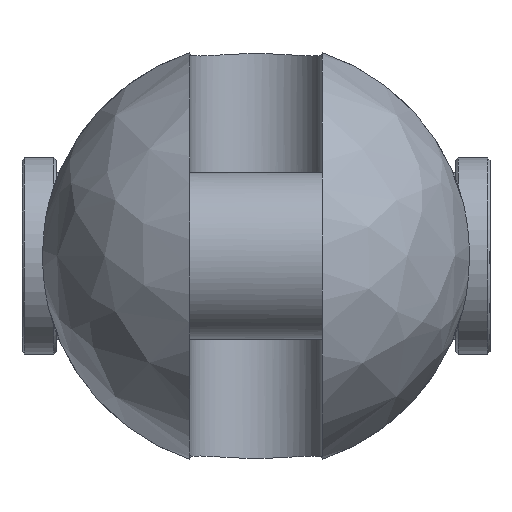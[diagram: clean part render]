
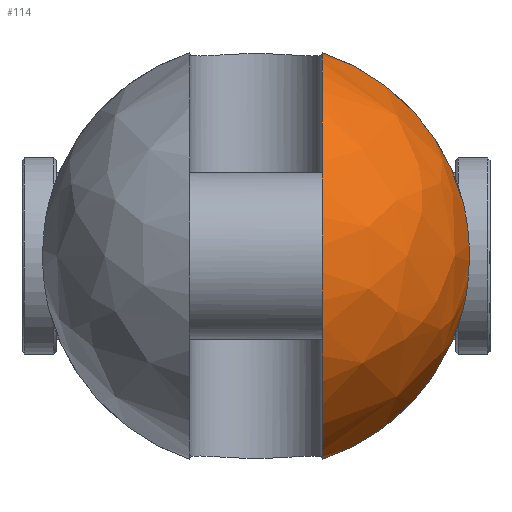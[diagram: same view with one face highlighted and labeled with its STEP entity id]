
A CAD part, left-side view. The second image highlights one B-rep face of the part: STEP entity #114.
In plain terms, the highlighted free-form (B-spline) face has degree [2, 2] with [9, 5] control points.
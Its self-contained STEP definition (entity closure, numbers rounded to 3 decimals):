
#114=ADVANCED_FACE('',(#202),#1535,.T.);
#202=FACE_OUTER_BOUND('',#302,.T.);
#302=EDGE_LOOP('',(#746,#747,#748,#749));
#746=ORIENTED_EDGE('',*,*,#1005,.T.);
#747=ORIENTED_EDGE('',*,*,#1002,.F.);
#748=ORIENTED_EDGE('',*,*,#1021,.T.);
#749=ORIENTED_EDGE('',*,*,#994,.F.);
#994=EDGE_CURVE('',#1425,#1426,#1256,.T.);
#1002=EDGE_CURVE('',#1433,#1434,#1257,.T.);
#1005=EDGE_CURVE('',#1425,#1434,#1259,.T.);
#1021=EDGE_CURVE('',#1433,#1426,#1130,.T.);
#1130=B_SPLINE_CURVE_WITH_KNOTS('',3,(#3620,#3621,#3622,#3623,#3624,#3625,
#3626,#3627,#3628,#3629,#3630,#3631,#3632,#3633),.UNSPECIFIED.,.F.,.F.,
(4,2,2,2,2,2,4),(0.,1.205,6.345,11.484,
16.624,21.764,22.969),.UNSPECIFIED.);
#1256=(
BOUNDED_CURVE()
B_SPLINE_CURVE(2,(#3472,#3473,#3474),.UNSPECIFIED.,.F.,.F.)
B_SPLINE_CURVE_WITH_KNOTS((3,3),(0.,43.672),.UNSPECIFIED.)
CURVE()
GEOMETRIC_REPRESENTATION_ITEM()
RATIONAL_B_SPLINE_CURVE((1.,0.877,1.))
REPRESENTATION_ITEM('')
);
#1257=(
BOUNDED_CURVE()
B_SPLINE_CURVE(2,(#3529,#3530,#3531),.UNSPECIFIED.,.F.,.F.)
B_SPLINE_CURVE_WITH_KNOTS((3,3),(0.,43.672),.UNSPECIFIED.)
CURVE()
GEOMETRIC_REPRESENTATION_ITEM()
RATIONAL_B_SPLINE_CURVE((1.,0.877,1.))
REPRESENTATION_ITEM('')
);
#1259=(
BOUNDED_CURVE()
B_SPLINE_CURVE(2,(#3537,#3538,#3539,#3540,#3541),.UNSPECIFIED.,.F.,.F.)
B_SPLINE_CURVE_WITH_KNOTS((3,2,3),(-129.912,-64.956,
0.),.UNSPECIFIED.)
CURVE()
GEOMETRIC_REPRESENTATION_ITEM()
RATIONAL_B_SPLINE_CURVE((1.,0.707,1.,0.707,1.))
REPRESENTATION_ITEM('')
);
#1425=VERTEX_POINT('',#3302);
#1426=VERTEX_POINT('',#3303);
#1433=VERTEX_POINT('',#3310);
#1434=VERTEX_POINT('',#3311);
#1535=(
BOUNDED_SURFACE()
B_SPLINE_SURFACE(2,2,((#3174,#3175,#3176,#3177,#3178),(#3179,#3180,#3181,
#3182,#3183),(#3184,#3185,#3186,#3187,#3188),(#3189,#3190,#3191,#3192,#3193),
(#3194,#3195,#3196,#3197,#3198),(#3199,#3200,#3201,#3202,#3203),(#3204,
#3205,#3206,#3207,#3208),(#3209,#3210,#3211,#3212,#3213),(#3214,#3215,#3216,
#3217,#3218)),.UNSPECIFIED.,.T.,.F.,.F.)
B_SPLINE_SURFACE_WITH_KNOTS((3,2,2,2,3),(3,2,3),(0.,68.33,136.659,
204.989,273.319),(0.,68.33,136.659),
 .UNSPECIFIED.)
GEOMETRIC_REPRESENTATION_ITEM()
RATIONAL_B_SPLINE_SURFACE(((1.,0.707,1.,0.707,1.),
(0.707,0.5,0.707,0.5,0.707),(1.,0.707,
1.,0.707,1.),(0.707,0.5,0.707,0.5,0.707),
(1.,0.707,1.,0.707,1.),(0.707,0.5,0.707,
0.5,0.707),(1.,0.707,1.,0.707,1.),(0.707,
0.5,0.707,0.5,0.707),(1.,0.707,1.,0.707,
1.)))
REPRESENTATION_ITEM('')
SURFACE()
);
#3174=CARTESIAN_POINT('',(-61.5,0.,0.));
#3175=CARTESIAN_POINT('',(-61.5,43.5,0.));
#3176=CARTESIAN_POINT('',(-18.,43.5,0.));
#3177=CARTESIAN_POINT('',(25.5,43.5,0.));
#3178=CARTESIAN_POINT('',(25.5,0.,0.));
#3179=CARTESIAN_POINT('',(-61.5,0.,0.));
#3180=CARTESIAN_POINT('',(-61.5,43.5,43.5));
#3181=CARTESIAN_POINT('',(-18.,43.5,43.5));
#3182=CARTESIAN_POINT('',(25.5,43.5,43.5));
#3183=CARTESIAN_POINT('',(25.5,0.,0.));
#3184=CARTESIAN_POINT('',(-61.5,0.,0.));
#3185=CARTESIAN_POINT('',(-61.5,0.,43.5));
#3186=CARTESIAN_POINT('',(-18.,0.,43.5));
#3187=CARTESIAN_POINT('',(25.5,0.,43.5));
#3188=CARTESIAN_POINT('',(25.5,0.,0.));
#3189=CARTESIAN_POINT('',(-61.5,0.,0.));
#3190=CARTESIAN_POINT('',(-61.5,-43.5,43.5));
#3191=CARTESIAN_POINT('',(-18.,-43.5,43.5));
#3192=CARTESIAN_POINT('',(25.5,-43.5,43.5));
#3193=CARTESIAN_POINT('',(25.5,0.,0.));
#3194=CARTESIAN_POINT('',(-61.5,0.,0.));
#3195=CARTESIAN_POINT('',(-61.5,-43.5,0.));
#3196=CARTESIAN_POINT('',(-18.,-43.5,0.));
#3197=CARTESIAN_POINT('',(25.5,-43.5,0.));
#3198=CARTESIAN_POINT('',(25.5,0.,0.));
#3199=CARTESIAN_POINT('',(-61.5,0.,0.));
#3200=CARTESIAN_POINT('',(-61.5,-43.5,-43.5));
#3201=CARTESIAN_POINT('',(-18.,-43.5,-43.5));
#3202=CARTESIAN_POINT('',(25.5,-43.5,-43.5));
#3203=CARTESIAN_POINT('',(25.5,0.,0.));
#3204=CARTESIAN_POINT('',(-61.5,0.,0.));
#3205=CARTESIAN_POINT('',(-61.5,0.,-43.5));
#3206=CARTESIAN_POINT('',(-18.,0.,-43.5));
#3207=CARTESIAN_POINT('',(25.5,0.,-43.5));
#3208=CARTESIAN_POINT('',(25.5,0.,0.));
#3209=CARTESIAN_POINT('',(-61.5,0.,0.));
#3210=CARTESIAN_POINT('',(-61.5,43.5,-43.5));
#3211=CARTESIAN_POINT('',(-18.,43.5,-43.5));
#3212=CARTESIAN_POINT('',(25.5,43.5,-43.5));
#3213=CARTESIAN_POINT('',(25.5,0.,0.));
#3214=CARTESIAN_POINT('',(-61.5,0.,0.));
#3215=CARTESIAN_POINT('',(-61.5,43.5,0.));
#3216=CARTESIAN_POINT('',(-18.,43.5,0.));
#3217=CARTESIAN_POINT('',(25.5,43.5,0.));
#3218=CARTESIAN_POINT('',(25.5,0.,0.));
#3302=CARTESIAN_POINT('',(-18.,-13.5,41.352));
#3303=CARTESIAN_POINT('',(-18.,-42.134,10.817));
#3310=CARTESIAN_POINT('',(-18.,-42.134,-10.817));
#3311=CARTESIAN_POINT('',(-18.,-13.5,-41.352));
#3472=CARTESIAN_POINT('',(-18.,-13.5,41.352));
#3473=CARTESIAN_POINT('',(-18.,-36.197,33.942));
#3474=CARTESIAN_POINT('',(-18.,-42.134,10.817));
#3529=CARTESIAN_POINT('',(-18.,-42.134,-10.817));
#3530=CARTESIAN_POINT('',(-18.,-36.197,-33.942));
#3531=CARTESIAN_POINT('',(-18.,-13.5,-41.352));
#3537=CARTESIAN_POINT('',(-18.,-13.5,41.352));
#3538=CARTESIAN_POINT('',(-59.352,-13.5,41.352));
#3539=CARTESIAN_POINT('',(-59.352,-13.5,0.));
#3540=CARTESIAN_POINT('',(-59.352,-13.5,-41.352));
#3541=CARTESIAN_POINT('',(-18.,-13.5,-41.352));
#3620=CARTESIAN_POINT('',(-18.,-42.134,-10.817));
#3621=CARTESIAN_POINT('',(-18.204,-42.221,-10.477));
#3622=CARTESIAN_POINT('',(-18.399,-42.304,-10.131));
#3623=CARTESIAN_POINT('',(-19.374,-42.718,-8.278));
#3624=CARTESIAN_POINT('',(-19.986,-42.974,-6.668));
#3625=CARTESIAN_POINT('',(-20.799,-43.313,-3.361));
#3626=CARTESIAN_POINT('',(-21.,-43.396,-1.664));
#3627=CARTESIAN_POINT('',(-21.,-43.396,1.664));
#3628=CARTESIAN_POINT('',(-20.799,-43.313,3.361));
#3629=CARTESIAN_POINT('',(-19.986,-42.974,6.668));
#3630=CARTESIAN_POINT('',(-19.374,-42.718,8.278));
#3631=CARTESIAN_POINT('',(-18.399,-42.304,10.131));
#3632=CARTESIAN_POINT('',(-18.204,-42.221,10.477));
#3633=CARTESIAN_POINT('',(-18.,-42.134,10.817));
